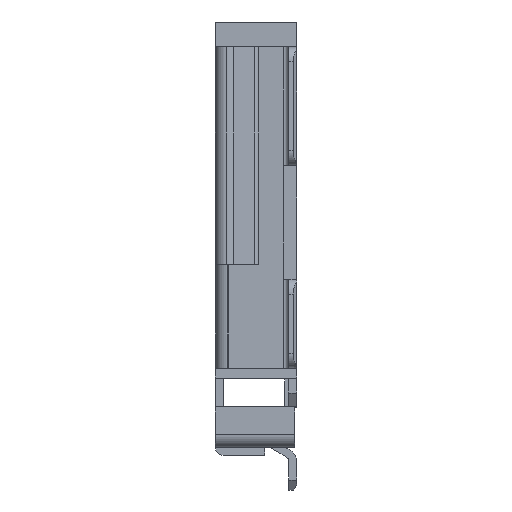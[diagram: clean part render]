
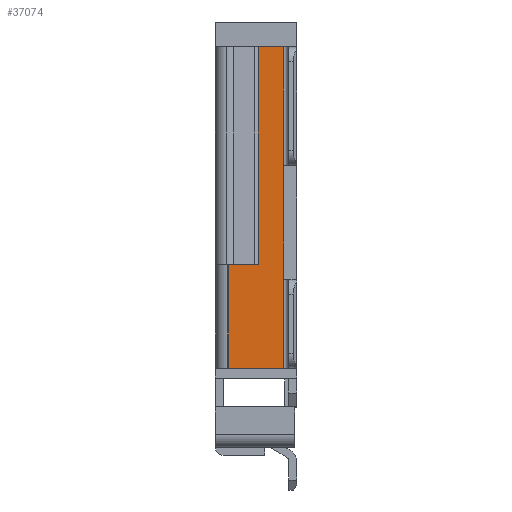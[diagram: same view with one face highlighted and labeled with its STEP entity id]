
A CAD part, left-side view. The second image highlights one B-rep face of the part: STEP entity #37074.
In plain terms, the highlighted planar face has unit normal (-1, 0, 0).
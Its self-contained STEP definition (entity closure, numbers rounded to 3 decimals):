
#221 = PLANE ( 'NONE',  #41495 ) ;
#2283 = VERTEX_POINT ( 'NONE', #4607 ) ;
#4242 = DIRECTION ( 'NONE',  ( 0., 0., -1. ) ) ;
#4246 = DIRECTION ( 'NONE',  ( -1., 0., 0. ) ) ;
#4607 = CARTESIAN_POINT ( 'NONE',  ( -12.215, 0.13, -4.7 ) ) ;
#5520 = ORIENTED_EDGE ( 'NONE', *, *, #35462, .F. ) ;
#5576 = LINE ( 'NONE', #26762, #41843 ) ;
#6401 = LINE ( 'NONE', #31595, #43773 ) ;
#6435 = CARTESIAN_POINT ( 'NONE',  ( -12.215, 0.389, -2.65 ) ) ;
#7587 = CARTESIAN_POINT ( 'NONE',  ( -12.215, 0.13, -1.45 ) ) ;
#10700 = EDGE_CURVE ( 'NONE', #37923, #14294, #21049, .T. ) ;
#11365 = LINE ( 'NONE', #39363, #30841 ) ;
#12491 = EDGE_CURVE ( 'NONE', #33103, #22784, #6401, .T. ) ;
#13322 = VECTOR ( 'NONE', #4242, 1000. ) ;
#13706 = CARTESIAN_POINT ( 'NONE',  ( -12.215, 0.389, -1.45 ) ) ;
#14294 = VERTEX_POINT ( 'NONE', #13706 ) ;
#14846 = VERTEX_POINT ( 'NONE', #45920 ) ;
#15125 = EDGE_LOOP ( 'NONE', ( #26829, #36343, #18268, #20561, #39668, #5520, #34669, #18881 ) ) ;
#15662 = DIRECTION ( 'NONE',  ( 0., 0., -1. ) ) ;
#18268 = ORIENTED_EDGE ( 'NONE', *, *, #10700, .T. ) ;
#18778 = DIRECTION ( 'NONE',  ( 0., 0., -1. ) ) ;
#18881 = ORIENTED_EDGE ( 'NONE', *, *, #33276, .F. ) ;
#20561 = ORIENTED_EDGE ( 'NONE', *, *, #46531, .T. ) ;
#21049 = LINE ( 'NONE', #26844, #40145 ) ;
#22670 = EDGE_CURVE ( 'NONE', #37923, #35809, #27888, .T. ) ;
#22784 = VERTEX_POINT ( 'NONE', #37352 ) ;
#23164 = DIRECTION ( 'NONE',  ( 0., 0., 1. ) ) ;
#24139 = CARTESIAN_POINT ( 'NONE',  ( -12.215, 0.13, -1.45 ) ) ;
#24442 = CARTESIAN_POINT ( 'NONE',  ( -12.215, 0.13, -3.8 ) ) ;
#26313 = CARTESIAN_POINT ( 'NONE',  ( -12.215, 0.74, -1.45 ) ) ;
#26762 = CARTESIAN_POINT ( 'NONE',  ( -12.215, 0.13, -1.45 ) ) ;
#26788 = DIRECTION ( 'NONE',  ( 0., 1., 0. ) ) ;
#26829 = ORIENTED_EDGE ( 'NONE', *, *, #29107, .F. ) ;
#26844 = CARTESIAN_POINT ( 'NONE',  ( -12.215, 0.74, -1.45 ) ) ;
#27888 = LINE ( 'NONE', #7587, #36277 ) ;
#28466 = DIRECTION ( 'NONE',  ( 0., 0., -1. ) ) ;
#29107 = EDGE_CURVE ( 'NONE', #35809, #36242, #39983, .T. ) ;
#29164 = CARTESIAN_POINT ( 'NONE',  ( -12.215, 0.13, -2.65 ) ) ;
#29953 = CARTESIAN_POINT ( 'NONE',  ( -12.215, 0.13, -2.919 ) ) ;
#29954 = DIRECTION ( 'NONE',  ( 0., 0., -1. ) ) ;
#30841 = VECTOR ( 'NONE', #42820, 1000. ) ;
#31175 = DIRECTION ( 'NONE',  ( 0., -1., 0. ) ) ;
#31595 = CARTESIAN_POINT ( 'NONE',  ( -12.215, 0.69, -3.65 ) ) ;
#32365 = LINE ( 'NONE', #40940, #40625 ) ;
#33103 = VERTEX_POINT ( 'NONE', #33211 ) ;
#33106 = LINE ( 'NONE', #6435, #40279 ) ;
#33211 = CARTESIAN_POINT ( 'NONE',  ( -12.215, 0.69, -3.65 ) ) ;
#33276 = EDGE_CURVE ( 'NONE', #36242, #2283, #5576, .T. ) ;
#34669 = ORIENTED_EDGE ( 'NONE', *, *, #46559, .F. ) ;
#35462 = EDGE_CURVE ( 'NONE', #14846, #33103, #32365, .T. ) ;
#35809 = VERTEX_POINT ( 'NONE', #29164 ) ;
#36242 = VERTEX_POINT ( 'NONE', #24442 ) ;
#36277 = VECTOR ( 'NONE', #18778, 1000. ) ;
#36343 = ORIENTED_EDGE ( 'NONE', *, *, #22670, .F. ) ;
#37074 = ADVANCED_FACE ( 'NONE', ( #46127 ), #221, .T. ) ;
#37352 = CARTESIAN_POINT ( 'NONE',  ( -12.215, 0.389, -3.65 ) ) ;
#37923 = VERTEX_POINT ( 'NONE', #24139 ) ;
#39363 = CARTESIAN_POINT ( 'NONE',  ( -12.215, 0.74, -4.7 ) ) ;
#39668 = ORIENTED_EDGE ( 'NONE', *, *, #12491, .F. ) ;
#39983 = LINE ( 'NONE', #29953, #13322 ) ;
#40145 = VECTOR ( 'NONE', #26788, 1000. ) ;
#40279 = VECTOR ( 'NONE', #28466, 1000. ) ;
#40625 = VECTOR ( 'NONE', #23164, 1000. ) ;
#40940 = CARTESIAN_POINT ( 'NONE',  ( -12.215, 0.69, -1.45 ) ) ;
#41495 = AXIS2_PLACEMENT_3D ( 'NONE', #26313, #4246, #29954 ) ;
#41843 = VECTOR ( 'NONE', #15662, 1000. ) ;
#42820 = DIRECTION ( 'NONE',  ( 0., 1., 0. ) ) ;
#43773 = VECTOR ( 'NONE', #31175, 1000. ) ;
#45920 = CARTESIAN_POINT ( 'NONE',  ( -12.215, 0.69, -4.7 ) ) ;
#46127 = FACE_OUTER_BOUND ( 'NONE', #15125, .T. ) ;
#46531 = EDGE_CURVE ( 'NONE', #14294, #22784, #33106, .T. ) ;
#46559 = EDGE_CURVE ( 'NONE', #2283, #14846, #11365, .T. ) ;
